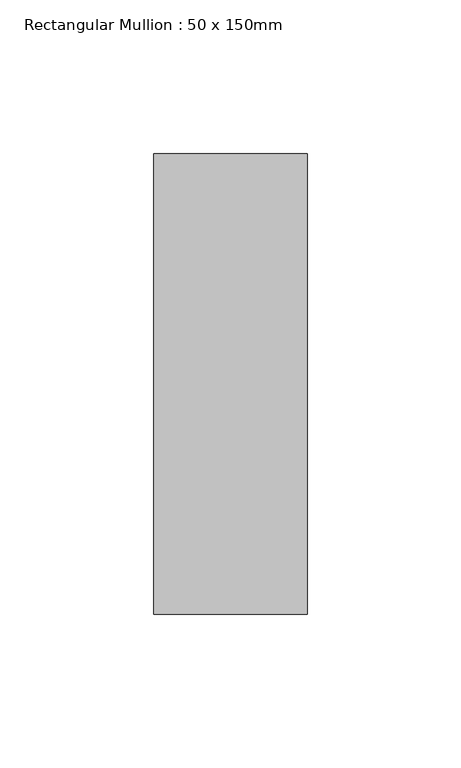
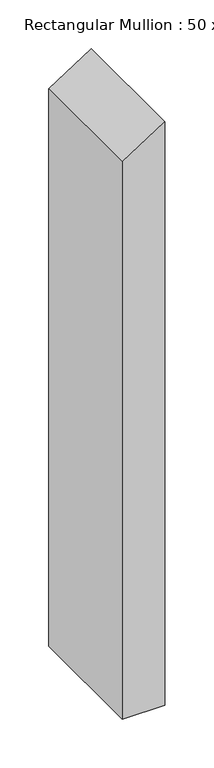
"""IFC4 building model written with IfcOpenShell, lengths in millimetres: member geometry, Rectangular Mullion : 50 x 150mm."""

from ifc_helpers import new_model, si_unit, frame, origin, place, context, project, spatial, polyline, outline, extrude, source, transform, mapped, element, save


def rectangular_mullion_50_x_150mm_e3565803(model_context):
    return source(origin(), model_context, "Body", "SweptSolid", [
        extrude(outline(polyline([(-43.3780246, 25.0), (-75.7358326, -25.0), (-770.8035412, -25.0), (-770.8035412, 25.0), (-43.3780246, 25.0)])), frame((0.0, -75.0, 0.0), z_axis=(0.0, 1.0, 0.0), x_axis=(0.0, 0.0, 1.0)), (0.0, 0.0, 1.0), 150.0),
    ])


if __name__ == "__main__":
    model = new_model("IFC4")
    model_context = context("Model", 3, world=origin())
    ifc_project = project(units=[si_unit("LENGTHUNIT", "METRE", prefix="MILLI")], contexts=[model_context])
    site = spatial("IfcSite", under=ifc_project)
    building = spatial("IfcBuilding", under=site)
    placement = place(None, origin())
    rectangular_mullion_50_x_150mm_shape = rectangular_mullion_50_x_150mm_e3565803(model_context)
    element("IfcMember", 1, ObjectType="Rectangular Mullion : 50 x 150mm", at=placement, inside=building, context=model_context, shape_type="MappedRepresentation", body=[
        mapped(rectangular_mullion_50_x_150mm_shape, transform((0.0, 0.0, 0.0), x_axis=(1.0, 0.0, 0.0), y_axis=(0.0, 1.0, 0.0), z_axis=(0.0, 0.0, 1.0))),
    ])
    save(model, "model.ifc")
